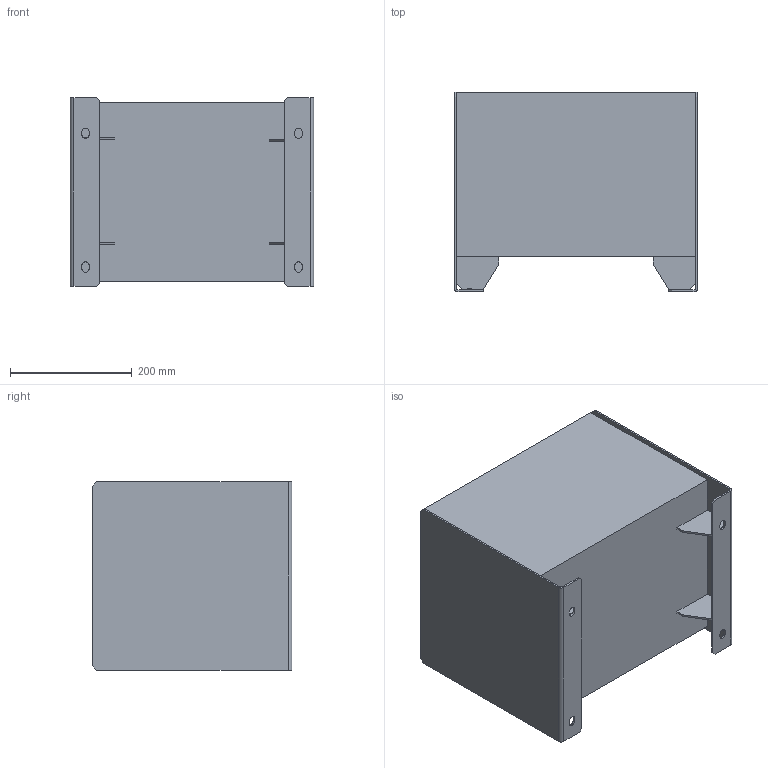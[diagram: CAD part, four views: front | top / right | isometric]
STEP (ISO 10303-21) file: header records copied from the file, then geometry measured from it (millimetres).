
FILE_DESCRIPTION (( 'STEP AP203' ), '1' );
FILE_NAME ('CFP20.STEP', '2016-05-03T06:56:30', ( '' ), ( '' ), 'SwSTEP 2.0', 'SolidWorks 2016', '' );
FILE_SCHEMA (( 'CONFIG_CONTROL_DESIGN' ));
Length unit declared in the file: millimetre
Products named in the file (1): CFP20
Bounding box: 400 x 328 x 310 mm (x, y, z)
Volume: 1779878.8 mm3; surface area: 1191897.3 mm2
Topology: 1 solids, 1 shells, 97 faces, 294 edges, 192 vertices
Faces by surface type: plane 65, cylinder 32
Entity records: 3419 total; most frequent: ORIENTED_EDGE 588, CARTESIAN_POINT 584, DIRECTION 556, EDGE_CURVE 294, VECTOR 228, LINE 228, VERTEX_POINT 192, AXIS2_PLACEMENT_3D 164
